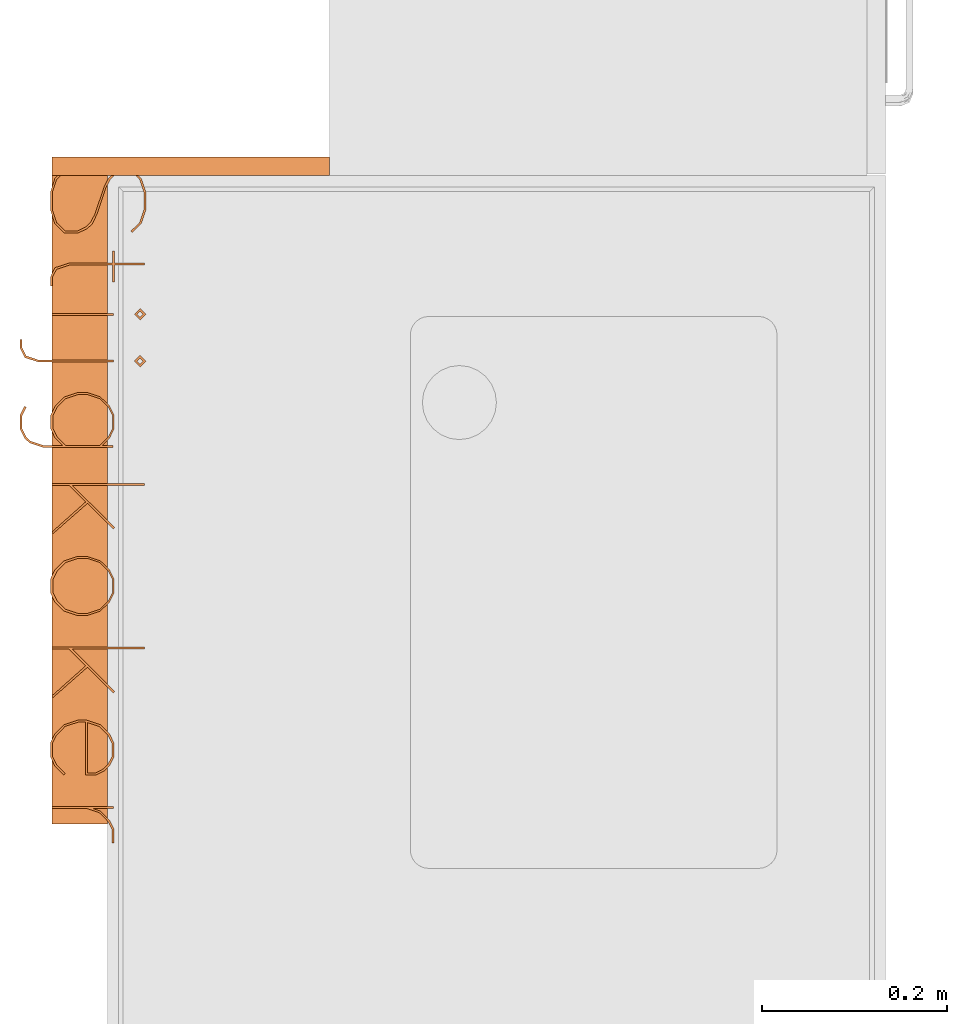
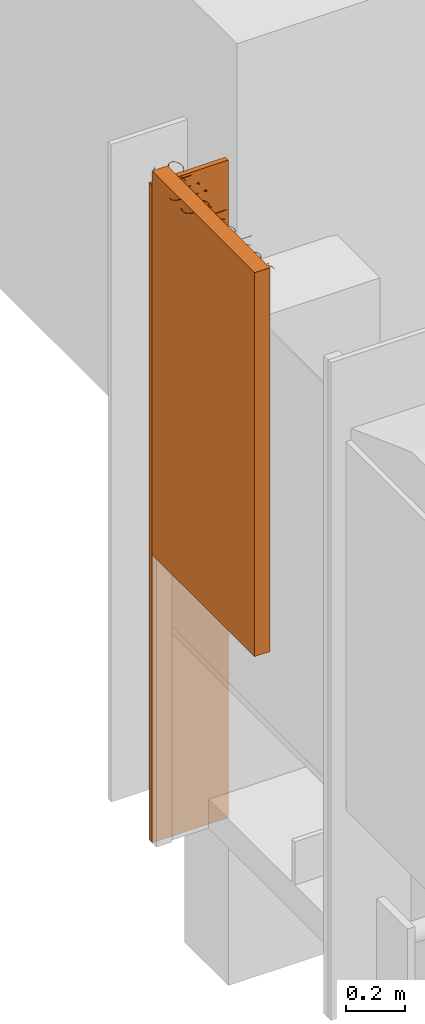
# One storey, part 18 of 43: 2 proxies.
"""IFC2X3 building model written with IfcOpenShell, lengths in metres."""

from ifc_helpers import new_model, entity, si_unit, converted_unit, derived_unit, direction, frame, origin, origin_2d_with_axis, place, context, subcontext, project, spatial, rectangle, extrude, face_set, surface_model, source, transform, mapped, material, type_object, type_shapes, element, save


model = new_model("IFC2X3")

# Units and contexts
model_context = context("Model", 3, precision=1e-05, world=origin(), true_north=direction((6.12303176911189e-17, 1.0)))
body_context = subcontext(model_context, "Body", "Model", "MODEL_VIEW")
ifc_project = project(units=[si_unit("LENGTHUNIT", "METRE"), si_unit("AREAUNIT", "SQUARE_METRE"), si_unit("VOLUMEUNIT", "CUBIC_METRE"), converted_unit("PLANEANGLEUNIT", "DEGREE", entity("IfcRatioMeasure", 0.0174532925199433), si_unit("PLANEANGLEUNIT", "RADIAN"), dimensions=[0, 0, 0, 0, 0, 0, 0]), si_unit("MASSUNIT", "GRAM", prefix="KILO"), derived_unit("MASSDENSITYUNIT", [(si_unit("MASSUNIT", "GRAM", prefix="KILO"), 1), (si_unit("LENGTHUNIT", "METRE"), -3)]), derived_unit("MOMENTOFINERTIAUNIT", [(si_unit("LENGTHUNIT", "METRE"), 4)]), si_unit("TIMEUNIT", "SECOND"), si_unit("FREQUENCYUNIT", "HERTZ"), si_unit("THERMODYNAMICTEMPERATUREUNIT", "DEGREE_CELSIUS"), derived_unit("THERMALTRANSMITTANCEUNIT", [(si_unit("MASSUNIT", "GRAM", prefix="KILO"), 1), (si_unit("THERMODYNAMICTEMPERATUREUNIT", "KELVIN"), -1), (si_unit("TIMEUNIT", "SECOND"), -3)]), derived_unit("VOLUMETRICFLOWRATEUNIT", [(si_unit("LENGTHUNIT", "METRE"), 3), (si_unit("TIMEUNIT", "SECOND"), -1)]), si_unit("ELECTRICCURRENTUNIT", "AMPERE"), si_unit("ELECTRICVOLTAGEUNIT", "VOLT"), si_unit("POWERUNIT", "WATT"), si_unit("FORCEUNIT", "NEWTON", prefix="KILO"), si_unit("ILLUMINANCEUNIT", "LUX"), si_unit("LUMINOUSFLUXUNIT", "LUMEN"), si_unit("LUMINOUSINTENSITYUNIT", "CANDELA"), derived_unit("USERDEFINED", [(si_unit("MASSUNIT", "GRAM", prefix="KILO"), -1), (si_unit("LENGTHUNIT", "METRE"), -2), (si_unit("TIMEUNIT", "SECOND"), 3), (si_unit("LUMINOUSFLUXUNIT", "LUMEN"), 1)]), derived_unit("LINEARVELOCITYUNIT", [(si_unit("LENGTHUNIT", "METRE"), 1), (si_unit("TIMEUNIT", "SECOND"), -1)]), si_unit("PRESSUREUNIT", "PASCAL"), derived_unit("USERDEFINED", [(si_unit("LENGTHUNIT", "METRE"), -2), (si_unit("MASSUNIT", "GRAM", prefix="KILO"), 1), (si_unit("TIMEUNIT", "SECOND"), -2)]), derived_unit("LINEARFORCEUNIT", [(si_unit("MASSUNIT", "GRAM", prefix="KILO"), 1), (si_unit("LENGTHUNIT", "METRE"), 1), (si_unit("TIMEUNIT", "SECOND"), -2), (si_unit("LENGTHUNIT", "METRE"), -1)]), derived_unit("PLANARFORCEUNIT", [(si_unit("MASSUNIT", "GRAM", prefix="KILO"), 1), (si_unit("LENGTHUNIT", "METRE"), 1), (si_unit("TIMEUNIT", "SECOND"), -2), (si_unit("LENGTHUNIT", "METRE"), -2)])], contexts=[model_context])

# Site, building, storey
site_placement = place(None, origin())
site = spatial("IfcSite", under=ifc_project, at=site_placement, Name="Default", CompositionType="ELEMENT")
building_placement = place(site_placement, origin())
building = spatial("IfcBuilding", under=site, at=building_placement, CompositionType="ELEMENT")
storey_placement = place(building_placement, frame((0.0, 0.0, 3.0)))
storey = spatial("IfcBuildingStorey", under=building, at=storey_placement, Name="01 OG", CompositionType="ELEMENT", Elevation=3.0)

# Proxies
ifc_material_1 = material(Name="dh_Weiß")
building_element_proxy_type_1 = type_object("IfcBuildingElementProxyType", Name="dh_Blende:dh_Blende", PredefinedType="NOTDEFINED", material=ifc_material_1)
shared_shape_1 = source(origin(), body_context, "Body", "SweptSolid", [
    extrude(rectangle(XDim=0.299999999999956, YDim=0.02, at=origin_2d_with_axis()), frame((0.0, -0.00999999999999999, 0.0), z_axis=(0.0, 0.0, 1.0), x_axis=(-1.0, 0.0, 0.0)), (0.0, 0.0, 1.0), 2.74),
])
type_shapes(building_element_proxy_type_1, [shared_shape_1])
proxy_1_placement = place(storey_placement, frame((10.3000000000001, 16.0239999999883, 0.7), z_axis=(0.0, 0.0, 1.0), x_axis=(-1.0, 0.0, 0.0)))
element("IfcBuildingElementProxy", 1, at=proxy_1_placement, inside=storey, type_object=building_element_proxy_type_1, material=ifc_material_1, Name="dh_Blende:dh_Blende", ObjectType="dh_Blende:dh_Blende", context=body_context, shape_type="MappedRepresentation", body=[
    mapped(shared_shape_1, transform((0.0, 0.0, 0.0), scale=1.0)),
])
ifc_material_2 = material(Name="dh_Stellfläche")
building_element_proxy_type_2 = type_object("IfcBuildingElementProxyType", Name="dh_Gerät_Stellfläche Bestand:Nutzergerät", PredefinedType="NOTDEFINED", material=ifc_material_2)
shared_shape_2 = source(origin(), body_context, "Body", "SurfaceModel", [
    surface_model("IfcFaceBasedSurfaceModel", [(-0.355113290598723, -0.0453817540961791, 1.605), (-0.356700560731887, -0.0470458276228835, 1.605), (-0.346946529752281, -0.0567998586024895, 1.605), (-0.332277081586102, -0.0616384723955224, 1.605), (-0.31294822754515, -0.0616384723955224, 1.605), (-0.298278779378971, -0.0567998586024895, 1.605), (-0.288166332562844, -0.0466618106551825, 1.605), (-0.288166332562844, -0.0314547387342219, 1.605), (-0.293081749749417, -0.0214446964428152, 1.605), (-0.298073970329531, -0.0163500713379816, 1.605), (-0.307904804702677, -0.0115114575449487, 1.605), (-0.336450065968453, -0.00188543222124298, 1.605), (-0.345692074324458, 0.00295318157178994, 1.605), (-0.35019787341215, 0.00745898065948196, 1.605), (-0.354857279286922, 0.0166497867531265, 1.605), (-0.354857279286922, 0.0255845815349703, 1.605), (-0.345820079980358, 0.0347241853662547, 1.605), (-0.331944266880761, 0.0393579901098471, 1.605), (-0.313204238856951, 0.0393579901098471, 1.605), (-0.299328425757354, 0.0347241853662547, 1.605), (-0.290112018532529, 0.0252005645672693, 1.605), (-0.288447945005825, 0.0268646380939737, 1.605), (-0.298278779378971, 0.0366186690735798, 1.605), (-0.31294822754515, 0.041585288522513, 1.605), (-0.332277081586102, 0.041585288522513, 1.605), (-0.346946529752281, 0.0366186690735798, 1.605), (-0.356982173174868, 0.0264550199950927, 1.605), (-0.356982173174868, 0.016112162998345, 1.605), (-0.352117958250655, 0.00610212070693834, 1.605), (-0.347074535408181, 0.00100749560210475, 1.605), (-0.337243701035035, -0.00383111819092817, 1.605), (-0.308698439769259, -0.0134571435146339, 1.605), (-0.299456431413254, -0.0182957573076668, 1.605), (-0.294950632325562, -0.0228015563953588, 1.605), (-0.29036802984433, -0.0320691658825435, 1.605), (-0.29036802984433, -0.0457657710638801, 1.605), (-0.299328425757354, -0.0549053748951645, 1.605), (-0.313204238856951, -0.0595647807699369, 1.605), (-0.331944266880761, -0.0595647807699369, 1.605), (-0.345820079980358, -0.0549053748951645, 1.605), (-0.230691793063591, -0.0616384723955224, 1.605), (-0.230691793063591, -0.0595647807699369, 1.605), (-0.239908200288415, -0.0595647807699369, 1.605), (-0.248740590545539, -0.055084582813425, 1.605), (-0.253399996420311, -0.0413879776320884, 1.605), (-0.253399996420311, 0.00533408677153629, 1.605), (-0.235402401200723, 0.00533408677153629, 1.605), (-0.235402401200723, 0.00745898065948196, 1.605), (-0.253399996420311, 0.00745898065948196, 1.605), (-0.253399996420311, 0.0399468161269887, 1.605), (-0.255576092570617, 0.0399468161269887, 1.605), (-0.255576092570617, 0.00745898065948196, 1.605), (-0.268735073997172, 0.00745898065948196, 1.605), (-0.268735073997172, 0.00533408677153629, 1.605), (-0.255576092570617, 0.00533408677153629, 1.605), (-0.255576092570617, -0.0416439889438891, 1.605), (-0.250660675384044, -0.0566974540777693, 1.605), (-0.240445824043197, -0.0616384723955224, 1.605), (-0.201327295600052, -0.0599999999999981, 1.605), (-0.199202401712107, -0.0599999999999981, 1.605), (-0.199202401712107, 0.00666534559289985, 1.605), (-0.201327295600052, 0.00666534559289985, 1.605), (-0.173294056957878, -0.0922318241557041, 1.605), (-0.173294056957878, -0.0944079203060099, 1.605), (-0.163744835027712, -0.0944079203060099, 1.605), (-0.153581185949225, -0.0893644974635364, 1.605), (-0.148665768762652, -0.0744390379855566, 1.605), (-0.148665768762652, 0.00651173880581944, 1.605), (-0.150867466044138, 0.00651173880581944, 1.605), (-0.150867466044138, -0.0741574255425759, 1.605), (-0.15550127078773, -0.087700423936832, 1.605), (-0.164333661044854, -0.0922318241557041, 1.605), (-0.100049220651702, -0.0875980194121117, 1.605), (-0.101175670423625, -0.0895181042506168, 1.605), (-0.0913448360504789, -0.0944079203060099, 1.605), (-0.0765473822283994, -0.0944079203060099, 1.605), (-0.066639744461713, -0.0895181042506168, 1.605), (-0.0615963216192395, -0.0843466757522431, 1.605), (-0.0566809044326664, -0.069728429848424, 1.605), (-0.0566809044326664, 0.00615332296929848, 1.605), (-0.0588826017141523, 0.00615332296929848, 1.605), (-0.0588826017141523, -0.00552079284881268, 1.605), (-0.066639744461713, 0.0023387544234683, 1.605), (-0.0765473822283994, 0.00717736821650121, 1.605), (-0.0913448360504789, 0.00717736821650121, 1.605), (-0.101303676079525, 0.0023387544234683, 1.605), (-0.111057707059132, -0.00756888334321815, 1.605), (-0.115973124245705, -0.0221871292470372, 1.605), (-0.115973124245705, -0.0319923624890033, 1.605), (-0.111057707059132, -0.0465850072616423, 1.605), (-0.101303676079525, -0.0564926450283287, 1.605), (-0.0913448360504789, -0.0612544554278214, 1.605), (-0.0765473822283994, -0.0612544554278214, 1.605), (-0.066639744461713, -0.0564926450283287, 1.605), (-0.0588826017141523, -0.0485818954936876, 1.605), (-0.0588826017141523, -0.0694724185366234, 1.605), (-0.0634652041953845, -0.0832970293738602, 1.605), (-0.0679710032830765, -0.0875980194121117, 1.605), (-0.0770594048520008, -0.0922318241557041, 1.605), (-0.0908072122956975, -0.0922318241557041, 1.605), (-0.0588826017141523, -0.0452537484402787, 1.605), (-0.0679710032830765, -0.0542909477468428, 1.605), (-0.0770594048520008, -0.0588735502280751, 1.605), (-0.0908072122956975, -0.0588735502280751, 1.605), (-0.0999212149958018, -0.0542909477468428, 1.605), (-0.109214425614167, -0.0451257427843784, 1.605), (-0.113797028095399, -0.0312499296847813, 1.605), (-0.113797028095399, -0.0220079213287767, 1.605), (-0.109214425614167, -0.00813210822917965, 1.605), (-0.0999212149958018, 0.000956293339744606, 1.605), (-0.0908072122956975, 0.00561569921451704, 1.605), (-0.0770594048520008, 0.00561569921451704, 1.605), (-0.0679710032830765, 0.000956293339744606, 1.605), (-0.0588826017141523, -0.00800410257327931, 1.605), (-0.0178183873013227, -0.0599999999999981, 1.605), (-0.0156934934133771, -0.0599999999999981, 1.605), (-0.0156934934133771, -0.0413367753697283, 1.605), (0.00230410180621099, -0.0235439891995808, 1.605), (0.0347919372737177, -0.0599999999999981, 1.605), (0.0364560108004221, -0.0587455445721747, 1.605), (0.0037633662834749, -0.0214958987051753, 1.605), (0.0316685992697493, 0.00625572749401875, 1.605), (0.0300813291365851, 0.00784299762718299, 1.605), (-0.0156934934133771, -0.0379574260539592, 1.605), (-0.0156934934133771, 0.0399468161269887, 1.605), (-0.0178183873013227, 0.0399468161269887, 1.605), (0.120146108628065, -0.0469178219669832, 1.605), (0.125061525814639, -0.0322227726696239, 1.605), (0.125061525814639, -0.0223663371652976, 1.605), (0.120146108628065, -0.00767128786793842, 1.605), (0.110315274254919, 0.00231315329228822, 1.605), (0.100407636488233, 0.00717736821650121, 1.605), (0.0856101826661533, 0.00717736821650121, 1.605), (0.0756513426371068, 0.00231315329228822, 1.605), (0.0658973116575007, -0.00767128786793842, 1.605), (0.0609818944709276, -0.0223663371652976, 1.605), (0.0609818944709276, -0.0322227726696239, 1.605), (0.0658973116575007, -0.0469178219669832, 1.605), (0.0756513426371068, -0.0568510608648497, 1.605), (0.0856101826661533, -0.0616384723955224, 1.605), (0.100407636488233, -0.0616384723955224, 1.605), (0.110315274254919, -0.0568510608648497, 1.605), (0.11820042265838, -0.0451257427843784, 1.605), (0.108984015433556, -0.0542909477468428, 1.605), (0.0998956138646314, -0.0588735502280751, 1.605), (0.0861478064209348, -0.0588735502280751, 1.605), (0.0770338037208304, -0.0542909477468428, 1.605), (0.0677405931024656, -0.0451257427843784, 1.605), (0.0631579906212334, -0.0312499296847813, 1.605), (0.0631579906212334, -0.0220079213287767, 1.605), (0.0677405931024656, -0.00813210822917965, 1.605), (0.0770338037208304, 0.000956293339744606, 1.605), (0.0861478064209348, 0.00561569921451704, 1.605), (0.0998956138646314, 0.00561569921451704, 1.605), (0.108984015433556, 0.000956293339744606, 1.605), (0.11820042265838, -0.00813210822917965, 1.605), (0.122859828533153, -0.0220079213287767, 1.605), (0.122859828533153, -0.0312499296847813, 1.605), (0.15913663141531, -0.0599999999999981, 1.605), (0.161261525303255, -0.0599999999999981, 1.605), (0.161261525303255, -0.0413367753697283, 1.605), (0.179259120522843, -0.0235439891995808, 1.605), (0.21174695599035, -0.0599999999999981, 1.605), (0.213411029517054, -0.0587455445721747, 1.605), (0.180718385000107, -0.0214958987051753, 1.605), (0.208623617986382, 0.00625572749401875, 1.605), (0.207036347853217, 0.00784299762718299, 1.605), (0.161261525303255, -0.0379574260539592, 1.605), (0.161261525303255, 0.0399468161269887, 1.605), (0.15913663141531, 0.0399468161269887, 1.605), (0.296973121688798, -0.0471994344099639, 1.605), (0.295309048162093, -0.0455353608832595, 1.605), (0.285939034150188, -0.0549821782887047, 1.605), (0.276850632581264, -0.0595647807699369, 1.605), (0.263102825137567, -0.0595647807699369, 1.605), (0.253988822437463, -0.0549821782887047, 1.605), (0.244695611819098, -0.0457913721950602, 1.605), (0.240113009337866, -0.0318899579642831, 1.605), (0.240113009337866, -0.0236463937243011, 1.605), (0.297229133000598, -0.0236463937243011, 1.605), (0.297229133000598, -0.0127147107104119, 1.605), (0.292313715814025, -0.00273026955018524, 1.605), (0.287270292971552, 0.00231315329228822, 1.605), (0.277362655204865, 0.00717736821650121, 1.605), (0.262565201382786, 0.00717736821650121, 1.605), (0.252606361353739, 0.00231315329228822, 1.605), (0.242852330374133, -0.00767128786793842, 1.605), (0.23793691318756, -0.0223663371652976, 1.605), (0.23793691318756, -0.0322227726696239, 1.605), (0.242852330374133, -0.0469178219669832, 1.605), (0.252606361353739, -0.0568510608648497, 1.605), (0.262565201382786, -0.0616384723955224, 1.605), (0.277362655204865, -0.0616384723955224, 1.605), (0.287270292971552, -0.0568510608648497, 1.605), (0.240522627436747, -0.0214446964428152, 1.605), (0.244695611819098, -0.00874653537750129, 1.605), (0.253988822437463, 0.000341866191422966, 1.605), (0.263102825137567, 0.0050012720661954, 1.605), (0.276850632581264, 0.0050012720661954, 1.605), (0.285939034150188, 0.000341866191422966, 1.605), (0.29044483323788, -0.00416393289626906, 1.605), (0.295027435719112, -0.0132779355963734, 1.605), (0.295027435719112, -0.0214446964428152, 1.605), (0.331176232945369, -0.0599999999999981, 1.605), (0.333301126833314, -0.0599999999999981, 1.605), (0.333301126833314, -0.0223407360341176, 1.605), (0.337960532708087, -0.00856732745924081, 1.605), (0.347202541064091, 0.000469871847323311, 1.605), (0.356342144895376, 0.00507807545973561, 1.605), (0.370371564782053, 0.00507807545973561, 1.605), (0.370371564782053, 0.00717736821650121, 1.605), (0.355753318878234, 0.00717736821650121, 1.605), (0.345871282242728, 0.00236435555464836, 1.605), (0.336040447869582, -0.00751768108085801, 1.605), (0.333301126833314, -0.0156076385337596, 1.605), (0.333301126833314, 0.00630692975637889, 1.605), (0.331176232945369, 0.00630692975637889, 1.605), (-0.149792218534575, 0.0291175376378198, 1.605), (-0.143494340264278, 0.0353386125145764, 1.605), (-0.149792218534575, 0.041585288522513, 1.605), (-0.156038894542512, 0.0353386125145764, 1.605), (-0.149792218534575, 0.0319592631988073, 1.605), (-0.153043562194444, 0.035210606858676, 1.605), (-0.149792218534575, 0.0384875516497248, 1.605), (-0.146464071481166, 0.035210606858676, 1.605), (-0.20025204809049, 0.0291175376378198, 1.605), (-0.194005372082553, 0.0353386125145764, 1.605), (-0.20025204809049, 0.041585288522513, 1.605), (-0.206498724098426, 0.0353386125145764, 1.605), (-0.20025204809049, 0.0319592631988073, 1.605), (-0.203503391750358, 0.035210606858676, 1.605), (-0.20025204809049, 0.0384875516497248, 1.605), (-0.197000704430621, 0.035210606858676, 1.605), (0.35, 0.0, 1.6), (0.35, -0.06, 1.6), (-0.35, -0.06, 1.6), (-0.35, 0.0, 1.6), (0.35, 0.0, 0.0), (0.35, -0.06, 0.0), (-0.35, -0.06, 0.0), (-0.35, 0.0, 0.0)], [face_set([[[0, 1, 2, 3, 4, 5, 6, 7, 8, 9, 10, 11, 12, 13, 14, 15, 16, 17, 18, 19, 20, 21, 22, 23, 24, 25, 26, 27, 28, 29, 30, 31, 32, 33, 34, 35, 36, 37, 38, 39]]]), face_set([[[40, 41, 42, 43, 44, 45, 46, 47, 48, 49, 50, 51, 52, 53, 54, 55, 56, 57]]]), face_set([[[58, 59, 60, 61]]]), face_set([[[62, 63, 64, 65, 66, 67, 68, 69, 70, 71]]]), face_set([[[72, 73, 74, 75, 76, 77, 78, 79, 80, 81, 82, 83, 84, 85, 86, 87, 88, 89, 90, 91, 92, 93, 94, 95, 96, 97, 98, 99], [100, 101, 102, 103, 104, 105, 106, 107, 108, 109, 110, 111, 112, 113]]]), face_set([[[114, 115, 116, 117, 118, 119, 120, 121, 122, 123, 124, 125]]]), face_set([[[126, 127, 128, 129, 130, 131, 132, 133, 134, 135, 136, 137, 138, 139, 140, 141], [142, 143, 144, 145, 146, 147, 148, 149, 150, 151, 152, 153, 154, 155, 156, 157]]]), face_set([[[158, 159, 160, 161, 162, 163, 164, 165, 166, 167, 168, 169]]]), face_set([[[170, 171, 172, 173, 174, 175, 176, 177, 178, 179, 180, 181, 182, 183, 184, 185, 186, 187, 188, 189, 190, 191, 192, 193], [194, 195, 196, 197, 198, 199, 200, 201, 202]]]), face_set([[[203, 204, 205, 206, 207, 208, 209, 210, 211, 212, 213, 214, 215, 216]]]), face_set([[[217, 218, 219, 220], [221, 222, 223, 224]]]), face_set([[[225, 226, 227, 228], [229, 230, 231, 232]]]), face_set([[[233, 234, 235, 236]], [[237, 238, 239, 240]], [[236, 233, 237, 240]], [[235, 236, 240, 239]], [[234, 238, 239, 235]], [[233, 234, 238, 237]]])]),
])
type_shapes(building_element_proxy_type_2, [shared_shape_2])
proxy_2_placement = place(storey_placement, frame((10.2100000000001, 15.6740000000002, 1.9), z_axis=(0.0, 0.0, 1.0), x_axis=(0.0, -1.0, 0.0)))
element("IfcBuildingElementProxy", 2, at=proxy_2_placement, inside=storey, type_object=building_element_proxy_type_2, material=ifc_material_2, Name="dh_Gerät_Stellfläche Bestand:Nutzergerät", ObjectType="dh_Gerät_Stellfläche Bestand:Nutzergerät", context=body_context, shape_type="MappedRepresentation", body=[
    mapped(shared_shape_2, transform((0.0, 0.0, 0.0), scale=1.0)),
])

save(model, "model.ifc")
